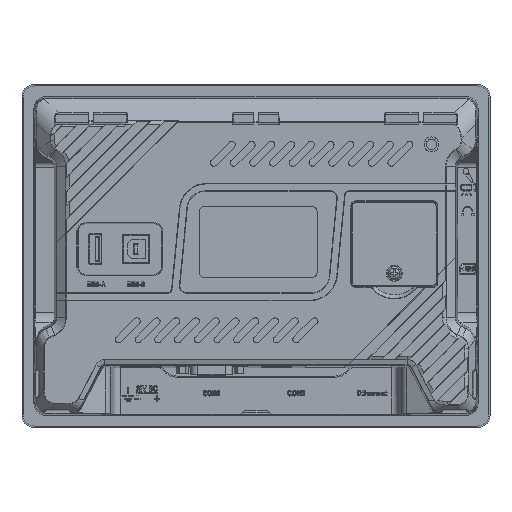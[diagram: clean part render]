
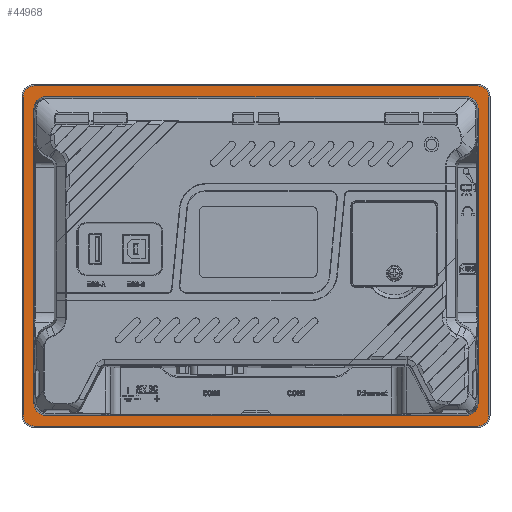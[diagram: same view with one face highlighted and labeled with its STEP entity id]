
A CAD part, front view. The second image highlights one B-rep face of the part: STEP entity #44968.
In plain terms, the highlighted planar face has unit normal (0, -1, 0).
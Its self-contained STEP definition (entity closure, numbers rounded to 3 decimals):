
#3769=DIRECTION('',(1.,0.,0.));
#3770=VECTOR('',#3769,180.938);
#3771=CARTESIAN_POINT('',(-90.469,-1.,
-68.467));
#3772=LINE('',#3771,#3770);
#4457=CARTESIAN_POINT('',(95.3,-1.,68.3));
#4458=DIRECTION('',(0.,1.,0.));
#4459=DIRECTION('',(0.,0.,1.));
#4460=AXIS2_PLACEMENT_3D('',#4457,#4458,#4459);
#4462=DIRECTION('',(0.,0.,-1.));
#4463=VECTOR('',#4462,136.6);
#4464=CARTESIAN_POINT('',(100.1,-1.,68.3));
#4465=LINE('',#4464,#4463);
#4466=CARTESIAN_POINT('',(95.3,-1.,-68.3));
#4467=DIRECTION('',(0.,1.,0.));
#4468=DIRECTION('',(1.,0.,0.));
#4469=AXIS2_PLACEMENT_3D('',#4466,#4467,#4468);
#4471=DIRECTION('',(-1.,0.,0.));
#4472=VECTOR('',#4471,190.6);
#4473=CARTESIAN_POINT('',(95.3,-1.,-73.1));
#4474=LINE('',#4473,#4472);
#4475=CARTESIAN_POINT('',(-95.3,-1.,-68.3));
#4476=DIRECTION('',(0.,1.,0.));
#4477=DIRECTION('',(0.,0.,-1.));
#4478=AXIS2_PLACEMENT_3D('',#4475,#4476,#4477);
#4480=DIRECTION('',(0.,0.,1.));
#4481=VECTOR('',#4480,136.6);
#4482=CARTESIAN_POINT('',(-100.1,-1.,-68.3));
#4483=LINE('',#4482,#4481);
#4484=CARTESIAN_POINT('',(-95.3,-1.,68.3));
#4485=DIRECTION('',(0.,1.,0.));
#4486=DIRECTION('',(-1.,0.,0.));
#4487=AXIS2_PLACEMENT_3D('',#4484,#4485,#4486);
#4489=DIRECTION('',(1.,0.,0.));
#4490=VECTOR('',#4489,190.6);
#4491=CARTESIAN_POINT('',(-95.3,-1.,73.1));
#4492=LINE('',#4491,#4490);
#4493=CARTESIAN_POINT('',(90.47,-1.,-63.47));
#4494=DIRECTION('',(0.,-1.,0.));
#4495=DIRECTION('',(0.,0.,-1.));
#4496=AXIS2_PLACEMENT_3D('',#4493,#4494,#4495);
#4498=CARTESIAN_POINT('',(90.47,-1.,63.47));
#4499=DIRECTION('',(0.,-1.,0.));
#4500=DIRECTION('',(1.,0.,0.));
#4501=AXIS2_PLACEMENT_3D('',#4498,#4499,#4500);
#4503=CARTESIAN_POINT('',(-90.47,-1.,63.47));
#4504=DIRECTION('',(0.,-1.,0.));
#4505=DIRECTION('',(0.,0.,1.));
#4506=AXIS2_PLACEMENT_3D('',#4503,#4504,#4505);
#4508=CARTESIAN_POINT('',(-90.47,-1.,-63.47));
#4509=DIRECTION('',(0.,-1.,0.));
#4510=DIRECTION('',(-1.,0.,0.));
#4511=AXIS2_PLACEMENT_3D('',#4508,#4509,#4510);
#8628=DIRECTION('',(0.,0.,1.));
#8629=VECTOR('',#8628,126.938);
#8630=CARTESIAN_POINT('',(95.467,-1.,
-63.469));
#8631=LINE('',#8630,#8629);
#11468=DIRECTION('',(0.,0.,-1.));
#11469=VECTOR('',#11468,126.94);
#11470=CARTESIAN_POINT('',(-95.468,-1.,63.47));
#11471=LINE('',#11470,#11469);
#11666=DIRECTION('',(-1.,0.,0.));
#11667=VECTOR('',#11666,180.937);
#11668=CARTESIAN_POINT('',(90.469,-1.,
68.467));
#11669=LINE('',#11668,#11667);
#23542=CARTESIAN_POINT('',(-90.468,-1.,
68.467));
#40336=CARTESIAN_POINT('',(95.3,-1.,73.1));
#40337=CARTESIAN_POINT('',(100.1,-1.,68.3));
#40338=VERTEX_POINT('',#40336);
#40339=VERTEX_POINT('',#40337);
#40340=CARTESIAN_POINT('',(100.1,-1.,-68.3));
#40341=VERTEX_POINT('',#40340);
#40342=CARTESIAN_POINT('',(95.3,-1.,-73.1));
#40343=VERTEX_POINT('',#40342);
#40344=CARTESIAN_POINT('',(-95.3,-1.,-73.1));
#40345=VERTEX_POINT('',#40344);
#40346=CARTESIAN_POINT('',(-100.1,-1.,-68.3));
#40347=VERTEX_POINT('',#40346);
#40348=CARTESIAN_POINT('',(-100.1,-1.,68.3));
#40349=VERTEX_POINT('',#40348);
#40350=CARTESIAN_POINT('',(-95.3,-1.,73.1));
#40351=VERTEX_POINT('',#40350);
#40405=CARTESIAN_POINT('',(-90.469,-1.,
-68.467));
#40406=CARTESIAN_POINT('',(90.469,-1.,
-68.467));
#40407=VERTEX_POINT('',#40405);
#40408=VERTEX_POINT('',#40406);
#40419=CARTESIAN_POINT('',(-95.468,-1.,63.47));
#40420=CARTESIAN_POINT('',(-95.468,-1.,-63.47));
#40421=VERTEX_POINT('',#40419);
#40422=VERTEX_POINT('',#40420);
#40428=VERTEX_POINT('',#23542);
#40429=CARTESIAN_POINT('',(90.469,-1.,
68.467));
#40430=VERTEX_POINT('',#40429);
#40436=CARTESIAN_POINT('',(95.467,-1.,
-63.469));
#40437=CARTESIAN_POINT('',(95.467,-1.,
63.469));
#40438=VERTEX_POINT('',#40436);
#40439=VERTEX_POINT('',#40437);
#44928=CARTESIAN_POINT('',(0.,-1.,0.));
#44929=DIRECTION('',(0.,-1.,0.));
#44930=DIRECTION('',(-1.,0.,0.));
#44931=AXIS2_PLACEMENT_3D('',#44928,#44929,#44930);
#44932=PLANE('',#44931);
#44934=ORIENTED_EDGE('',*,*,#44933,.T.);
#44936=ORIENTED_EDGE('',*,*,#44935,.T.);
#44938=ORIENTED_EDGE('',*,*,#44937,.T.);
#44940=ORIENTED_EDGE('',*,*,#44939,.T.);
#44942=ORIENTED_EDGE('',*,*,#44941,.T.);
#44944=ORIENTED_EDGE('',*,*,#44943,.T.);
#44946=ORIENTED_EDGE('',*,*,#44945,.T.);
#44948=ORIENTED_EDGE('',*,*,#44947,.T.);
#44949=EDGE_LOOP('',(#44934,#44936,#44938,#44940,#44942,#44944,#44946,#44948));
#44950=FACE_OUTER_BOUND('',#44949,.F.);
#44952=ORIENTED_EDGE('',*,*,#44951,.T.);
#44954=ORIENTED_EDGE('',*,*,#44953,.T.);
#44956=ORIENTED_EDGE('',*,*,#44955,.T.);
#44958=ORIENTED_EDGE('',*,*,#44957,.T.);
#44960=ORIENTED_EDGE('',*,*,#44959,.T.);
#44962=ORIENTED_EDGE('',*,*,#44961,.T.);
#44964=ORIENTED_EDGE('',*,*,#44963,.T.);
#44965=ORIENTED_EDGE('',*,*,#43643,.T.);
#44966=EDGE_LOOP('',(#44952,#44954,#44956,#44958,#44960,#44962,#44964,#44965));
#44967=FACE_BOUND('',#44966,.F.);
#44968=ADVANCED_FACE('',(#44950,#44967),#44932,.T.);
#4461=CIRCLE('',#4460,4.8);
#4470=CIRCLE('',#4469,4.8);
#4479=CIRCLE('',#4478,4.8);
#4488=CIRCLE('',#4487,4.8);
#4497=CIRCLE('',#4496,5.);
#4502=CIRCLE('',#4501,5.);
#4507=CIRCLE('',#4506,5.);
#4512=CIRCLE('',#4511,5.);
#43643=EDGE_CURVE('',#40407,#40408,#3772,.T.);
#44933=EDGE_CURVE('',#40338,#40339,#4461,.T.);
#44935=EDGE_CURVE('',#40339,#40341,#4465,.T.);
#44937=EDGE_CURVE('',#40341,#40343,#4470,.T.);
#44939=EDGE_CURVE('',#40343,#40345,#4474,.T.);
#44941=EDGE_CURVE('',#40345,#40347,#4479,.T.);
#44943=EDGE_CURVE('',#40347,#40349,#4483,.T.);
#44945=EDGE_CURVE('',#40349,#40351,#4488,.T.);
#44947=EDGE_CURVE('',#40351,#40338,#4492,.T.);
#44951=EDGE_CURVE('',#40408,#40438,#4497,.T.);
#44953=EDGE_CURVE('',#40438,#40439,#8631,.T.);
#44955=EDGE_CURVE('',#40439,#40430,#4502,.T.);
#44957=EDGE_CURVE('',#40430,#40428,#11669,.T.);
#44959=EDGE_CURVE('',#40428,#40421,#4507,.T.);
#44961=EDGE_CURVE('',#40421,#40422,#11471,.T.);
#44963=EDGE_CURVE('',#40422,#40407,#4512,.T.);
